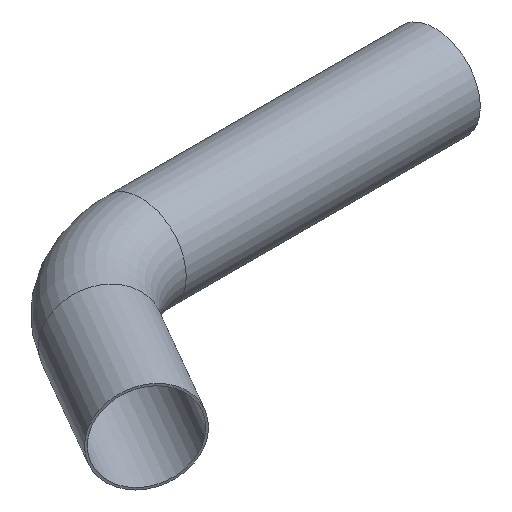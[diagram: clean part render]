
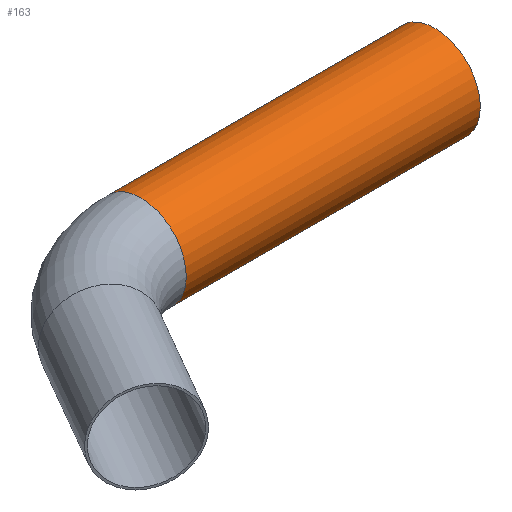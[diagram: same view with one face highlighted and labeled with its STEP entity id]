
A CAD part, isometric view. The second image highlights one B-rep face of the part: STEP entity #163.
In plain terms, the highlighted cylindrical face has radius 44.45 mm (diameter 88.9 mm), a full revolution.
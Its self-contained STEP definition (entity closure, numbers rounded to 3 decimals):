
#136=CARTESIAN_POINT('',(0.0,108.,0.0));
#137=DIRECTION('',(1.0,0.,0.0));
#138=DIRECTION('',(0.0,-1.0,0.0));
#139=AXIS2_PLACEMENT_3D('',#136,#137,#138);
#140=CYLINDRICAL_SURFACE('',#139,44.45);
#141=CARTESIAN_POINT('',(287.646,152.45,0.));
#142=VERTEX_POINT('',#141);
#143=CARTESIAN_POINT('',(287.646,108.,0.0));
#144=DIRECTION('',(-1.0,0.0,0.0));
#145=DIRECTION('',(0.0,-1.0,0.0));
#146=AXIS2_PLACEMENT_3D('',#143,#144,#145);
#147=CIRCLE('',#146,44.45);
#148=EDGE_CURVE('',#142,#142,#147,.T.);
#149=ORIENTED_EDGE('',*,*,#148,.T.);
#150=EDGE_LOOP('',(#149));
#151=FACE_OUTER_BOUND('',#150,.T.);
#152=CARTESIAN_POINT('',(0.,152.45,0.));
#153=VERTEX_POINT('',#152);
#154=CARTESIAN_POINT('',(0.0,108.,0.0));
#155=DIRECTION('',(-1.0,0.0,0.0));
#156=DIRECTION('',(0.0,-1.0,0.0));
#157=AXIS2_PLACEMENT_3D('',#154,#155,#156);
#158=CIRCLE('',#157,44.45);
#159=EDGE_CURVE('',#153,#153,#158,.T.);
#160=ORIENTED_EDGE('',*,*,#159,.F.);
#161=EDGE_LOOP('',(#160));
#162=FACE_BOUND('',#161,.T.);
#163=ADVANCED_FACE('',(#151,#162),#140,.T.);
